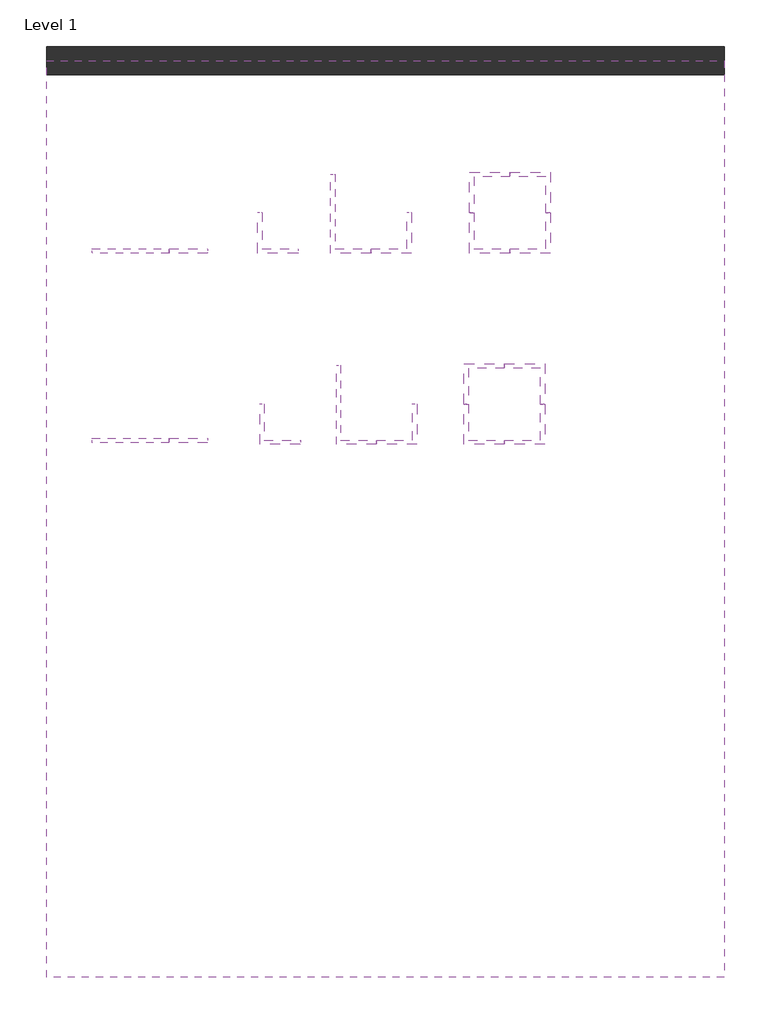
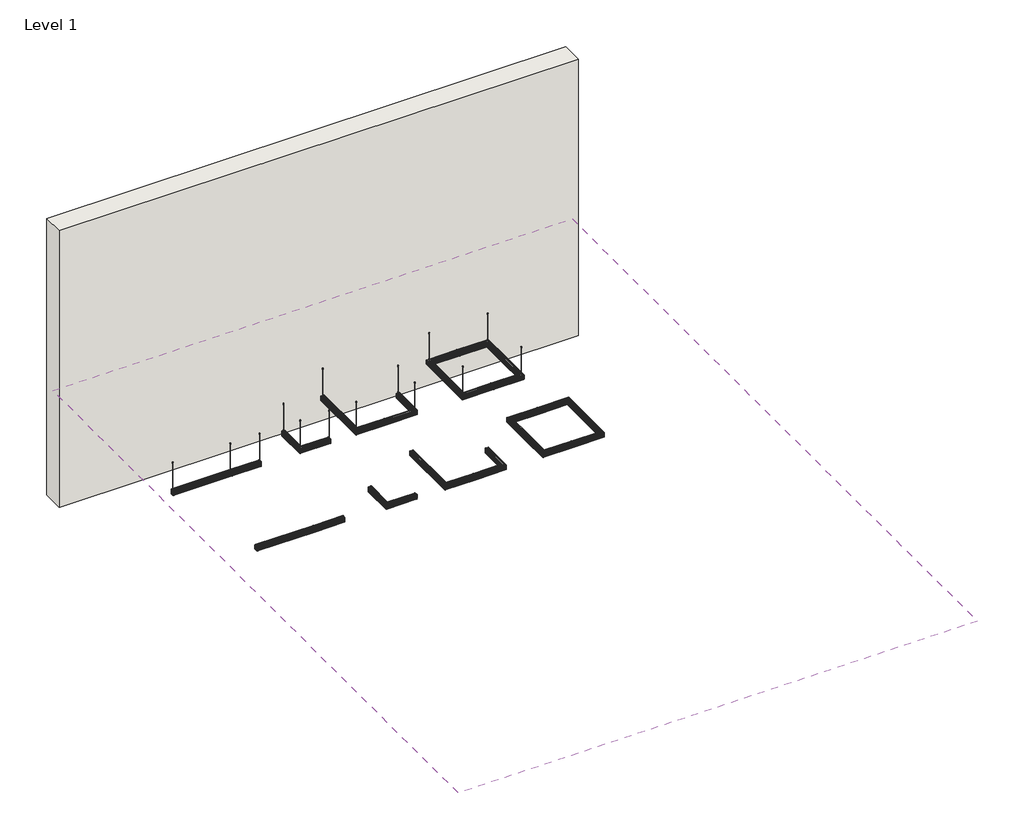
# One storey: 18 light fixtures, 1 covering, 1 wall.
"""IFC4 building model written with IfcOpenShell, lengths in millimetres."""

from ifc_helpers import new_model, si_unit, frame, origin, origin_with_axes, place, context, project, spatial, polyline, outline, extrude, transform, mapped, element, save
from components import light_fixture_9107d4ee, light_fixture_d8fbe685, light_fixture_e4687d5b, light_fixture_fc643ec0, l_shape_a0c5f6b5, l_shape_60d88c94, l_shape_a0ecf556, l_shape_d3140779, l_shape_80f5c92a, l_shape_06cc43b9, l_shape_f6189a61, l_shape_2e4bd5f2, l_shape_ef792f7e, l_shape_c2484b83, l_shape_abac3c9d, l_shape_a64cd410, l_shape_3eba71ef, l_shape_feb75dd8, l_shape_645f54f3, l_shape_8de72211, l_shape_622036a6

model = new_model("IFC4")

# Units and contexts
model_context = context("Model", 3, world=origin())
ifc_project = project(units=[si_unit("LENGTHUNIT", "METRE", prefix="MILLI")], contexts=[model_context])

# Site, building, storey
site = spatial("IfcSite", under=ifc_project)
building = spatial("IfcBuilding", under=site)
storey = spatial("IfcBuildingStorey", under=building, Name="Level 1", Elevation=0.0)

# Covering
placement = place(None, origin())
element("IfcCovering", 1, ObjectType="2' x 4' ACT System", at=placement, inside=storey, context=model_context, shape_type="SweptSolid", body=[
    extrude(outline(polyline([(-1779.5199774, 6283.1270347), (9040.8800226, 6283.1270347), (9040.8800226, -8347.2729653), (-1779.5199774, -8347.2729653), (-1779.5199774, 6283.1270347)])), frame((0.0, 0.0, 2438.4), z_axis=(0.0, 0.0, 1.0), x_axis=(1.0, 0.0, 0.0)), (0.0, 0.0, 1.0), 57.15),
])

# Light fixtures
light_fixture_shape = light_fixture_9107d4ee(model_context)
element("IfcLightFixture", 2, ObjectType="Lighting-Pendant-Betacalco-Bellows-Straight : BLLC-DT1-SL04-LPF020-CR80-CTA40-DD1-FA01", at=placement, inside=storey, context=model_context, shape_type="MappedRepresentation", body=[
    mapped(light_fixture_shape, transform((-433.3199774, 3248.8420751, 2438.4), x_axis=(1.0, 0.0, 0.0), y_axis=(0.0, -1.0, 0.0), z_axis=(0.0, 0.0, -1.0))),
])
light_fixture_2_shape = light_fixture_d8fbe685(model_context)
element("IfcLightFixture", 3, ObjectType="Lighting-Pendant-Betacalco-Bellows-Straight : BLLC-DT1-SL04-LPF020-CR80-CTA40-DD1-FA01", at=placement, inside=storey, context=model_context, shape_type="MappedRepresentation", body=[
    mapped(light_fixture_2_shape, transform((481.0800226, 3248.8420751, 2438.4), x_axis=(1.0, 0.0, 0.0), y_axis=(0.0, -1.0, 0.0), z_axis=(0.0, 0.0, -1.0))),
])
light_fixture_3_shape = light_fixture_e4687d5b(model_context)
element("IfcLightFixture", 4, ObjectType="Lighting-Ceiling-Betacalco-Bellows-Straight : BLLC-DT1-SL04-LPF020-CR80-CTA40-DD1-FA01", at=placement, inside=storey, context=model_context, shape_type="MappedRepresentation", body=[
    mapped(light_fixture_3_shape, transform((481.0800226, 222.5101243, 2438.4), x_axis=(1.0, 0.0, 0.0), y_axis=(0.0, -1.0, 0.0), z_axis=(0.0, 0.0, -1.0))),
])
light_fixture_4_shape = light_fixture_fc643ec0(model_context)
element("IfcLightFixture", 5, ObjectType="Lighting-Ceiling-Betacalco-Bellows-Straight : BLLC-DT1-SL04-LPF020-CR80-CTA40-DD1-FA01", at=placement, inside=storey, context=model_context, shape_type="MappedRepresentation", body=[
    mapped(light_fixture_4_shape, transform((-433.3199774, 222.5101243, 2438.4), x_axis=(1.0, 0.0, 0.0), y_axis=(0.0, -1.0, 0.0), z_axis=(0.0, 0.0, -1.0))),
])
l_shape_shape = l_shape_a0c5f6b5(model_context)
l_shape_2_shape = l_shape_60d88c94(model_context)
element("IfcLightFixture", 6, ObjectType="Lighting-Pendant-Betacalco-Bellows-L_Shape : L Shape", at=placement, inside=storey, context=model_context, shape_type="MappedRepresentation", body=[
    mapped(l_shape_shape, transform((3706.8800226, 3248.8420751, 2438.4), x_axis=(1.0, 0.0, 0.0), y_axis=(0.0, -1.0, 0.0), z_axis=(0.0, 0.0, -1.0))),
    mapped(l_shape_2_shape, transform((3706.8800226, 3248.8420751, 2438.4), x_axis=(1.0, 0.0, 0.0), y_axis=(0.0, -1.0, 0.0), z_axis=(0.0, 0.0, -1.0))),
])
l_shape_3_shape = l_shape_a0ecf556(model_context)
l_shape_4_shape = l_shape_d3140779(model_context)
element("IfcLightFixture", 7, ObjectType="Lighting-Pendant-Betacalco-Bellows-L_Shape : L Shape", at=placement, inside=storey, context=model_context, shape_type="MappedRepresentation", body=[
    mapped(l_shape_3_shape, transform((3097.2800226, 3248.8420751, 2438.4), x_axis=(-1.0, 0.0, 0.0), y_axis=(0.0, 1.0, 0.0), z_axis=(0.0, 0.0, -1.0))),
    mapped(l_shape_4_shape, transform((3097.2800226, 3248.8420751, 2438.4), x_axis=(-1.0, 0.0, 0.0), y_axis=(0.0, 1.0, 0.0), z_axis=(0.0, 0.0, -1.0))),
])
l_shape_5_shape = l_shape_80f5c92a(model_context)
l_shape_6_shape = l_shape_06cc43b9(model_context)
l_shape_7_shape = l_shape_f6189a61(model_context)
element("IfcLightFixture", 8, ObjectType="Lighting-Pendant-Betacalco-Bellows-L_Shape : L Shape", at=placement, inside=storey, context=model_context, shape_type="MappedRepresentation", body=[
    mapped(l_shape_5_shape, transform((1928.8800226, 3248.8420751, 2438.4), x_axis=(-1.0, 0.0, 0.0), y_axis=(0.0, 1.0, 0.0), z_axis=(0.0, 0.0, -1.0))),
    mapped(l_shape_6_shape, transform((1928.8800226, 3248.8420751, 2438.4), x_axis=(-1.0, 0.0, 0.0), y_axis=(0.0, 1.0, 0.0), z_axis=(0.0, 0.0, -1.0))),
    mapped(l_shape_7_shape, transform((1928.8800226, 3248.8420751, 2438.4), x_axis=(-1.0, 0.0, 0.0), y_axis=(0.0, 1.0, 0.0), z_axis=(0.0, 0.0, -1.0))),
])
l_shape_8_shape = l_shape_2e4bd5f2(model_context)
element("IfcLightFixture", 9, ObjectType="Lighting-Pendant-Betacalco-Bellows-L_Shape : L Shape", at=placement, inside=storey, context=model_context, shape_type="MappedRepresentation", body=[
    mapped(l_shape_8_shape, transform((5317.7267126, 3248.8420751, 2438.4), x_axis=(-1.0, 0.0, 0.0), y_axis=(0.0, 1.0, 0.0), z_axis=(0.0, 0.0, -1.0))),
])
element("IfcLightFixture", 10, ObjectType="Lighting-Pendant-Betacalco-Bellows-L_Shape : L Shape", at=placement, inside=storey, context=model_context, shape_type="MappedRepresentation", body=[
    mapped(l_shape_8_shape, transform((5927.3267126, 4468.0420751, 2438.4), x_axis=(1.0, 0.0, 0.0), y_axis=(0.0, -1.0, 0.0), z_axis=(0.0, 0.0, -1.0))),
])
l_shape_9_shape = l_shape_ef792f7e(model_context)
element("IfcLightFixture", 11, ObjectType="Lighting-Pendant-Betacalco-Bellows-L_Shape : L Shape", at=placement, inside=storey, context=model_context, shape_type="MappedRepresentation", body=[
    mapped(l_shape_9_shape, transform((5927.3267126, 3248.8420751, 2438.4), x_axis=(1.0, 0.0, 0.0), y_axis=(0.0, -1.0, 0.0), z_axis=(0.0, 0.0, -1.0))),
])
element("IfcLightFixture", 12, ObjectType="Lighting-Pendant-Betacalco-Bellows-L_Shape : L Shape", at=placement, inside=storey, context=model_context, shape_type="MappedRepresentation", body=[
    mapped(l_shape_9_shape, transform((5317.7267126, 4468.0420751, 2438.4), x_axis=(-1.0, 0.0, 0.0), y_axis=(0.0, 1.0, 0.0), z_axis=(0.0, 0.0, -1.0))),
])
l_shape_10_shape = l_shape_c2484b83(model_context)
l_shape_11_shape = l_shape_abac3c9d(model_context)
element("IfcLightFixture", 13, ObjectType="Lighting-Ceiling-Betacalco-Bellows-L_Shape : L Shape", at=placement, inside=storey, context=model_context, shape_type="MappedRepresentation", body=[
    mapped(l_shape_10_shape, transform((1663.0169915, 500.0258926, 2438.4), x_axis=(0.0, -1.0, 0.0), y_axis=(-1.0, 0.0, 0.0), z_axis=(0.0, 0.0, -1.0))),
    mapped(l_shape_11_shape, transform((1663.0169915, 500.0258926, 2438.4), x_axis=(0.0, -1.0, 0.0), y_axis=(-1.0, 0.0, 0.0), z_axis=(0.0, 0.0, -1.0))),
])
l_shape_12_shape = l_shape_a64cd410(model_context)
l_shape_13_shape = l_shape_3eba71ef(model_context)
element("IfcLightFixture", 14, ObjectType="Lighting-Ceiling-Betacalco-Bellows-L_Shape : L Shape", at=placement, inside=storey, context=model_context, shape_type="MappedRepresentation", body=[
    mapped(l_shape_12_shape, transform((2884.4274627, 804.8258926, 2438.4), x_axis=(0.0, -1.0, 0.0), y_axis=(-1.0, 0.0, 0.0), z_axis=(0.0, 0.0, -1.0))),
    mapped(l_shape_13_shape, transform((2884.4274627, 804.8258926, 2438.4), x_axis=(0.0, -1.0, 0.0), y_axis=(-1.0, 0.0, 0.0), z_axis=(0.0, 0.0, -1.0))),
])
l_shape_14_shape = l_shape_feb75dd8(model_context)
l_shape_15_shape = l_shape_645f54f3(model_context)
element("IfcLightFixture", 15, ObjectType="Lighting-Ceiling-Betacalco-Bellows-L_Shape : L Shape", at=placement, inside=storey, context=model_context, shape_type="MappedRepresentation", body=[
    mapped(l_shape_14_shape, transform((4103.6274627, 500.0258926, 2438.4), x_axis=(0.0, -1.0, 0.0), y_axis=(-1.0, 0.0, 0.0), z_axis=(0.0, 0.0, -1.0))),
    mapped(l_shape_15_shape, transform((4103.6274627, 500.0258926, 2438.4), x_axis=(0.0, -1.0, 0.0), y_axis=(-1.0, 0.0, 0.0), z_axis=(0.0, 0.0, -1.0))),
])
l_shape_16_shape = l_shape_8de72211(model_context)
element("IfcLightFixture", 16, ObjectType="Lighting-Ceiling-Betacalco-Bellows-L_Shape : L Shape", at=placement, inside=storey, context=model_context, shape_type="MappedRepresentation", body=[
    mapped(l_shape_16_shape, transform((4926.0800226, 500.0258926, 2438.4), x_axis=(0.0, -1.0, 0.0), y_axis=(-1.0, 0.0, 0.0), z_axis=(0.0, 0.0, -1.0))),
])
element("IfcLightFixture", 17, ObjectType="Lighting-Ceiling-Betacalco-Bellows-L_Shape : L Shape", at=placement, inside=storey, context=model_context, shape_type="MappedRepresentation", body=[
    mapped(l_shape_16_shape, transform((6145.2800226, 1109.6258926, 2438.4), x_axis=(0.0, 1.0, 0.0), y_axis=(1.0, 0.0, 0.0), z_axis=(0.0, 0.0, -1.0))),
])
l_shape_17_shape = l_shape_622036a6(model_context)
element("IfcLightFixture", 18, ObjectType="Lighting-Ceiling-Betacalco-Bellows-L_Shape : L Shape", at=placement, inside=storey, context=model_context, shape_type="MappedRepresentation", body=[
    mapped(l_shape_17_shape, transform((6145.2800226, 500.0258926, 2438.4), x_axis=(0.0, -1.0, 0.0), y_axis=(-1.0, 0.0, 0.0), z_axis=(0.0, 0.0, -1.0))),
])
element("IfcLightFixture", 19, ObjectType="Lighting-Ceiling-Betacalco-Bellows-L_Shape : L Shape", at=placement, inside=storey, context=model_context, shape_type="MappedRepresentation", body=[
    mapped(l_shape_17_shape, transform((4926.0800226, 1109.6258926, 2438.4), x_axis=(0.0, 1.0, 0.0), y_axis=(1.0, 0.0, 0.0), z_axis=(0.0, 0.0, -1.0))),
])

# Wall
element("IfcWall", 20, ObjectType="Exterior - CMU on Mtl. Stud", at=placement, inside=storey, context=model_context, shape_type="SweptSolid", body=[
    extrude(outline(polyline([(-1779.5199774, 6510.1395347), (9040.8800226, 6510.1395347), (9040.8800226, 6056.1145347), (-1779.5199774, 6056.1145347), (-1779.5199774, 6510.1395347)])), origin_with_axes(), (0.0, 0.0, 1.0), 6096.0),
])

save(model, "model.ifc")
